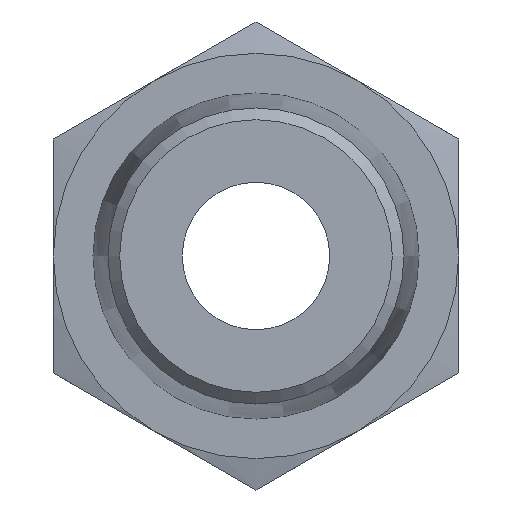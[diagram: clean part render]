
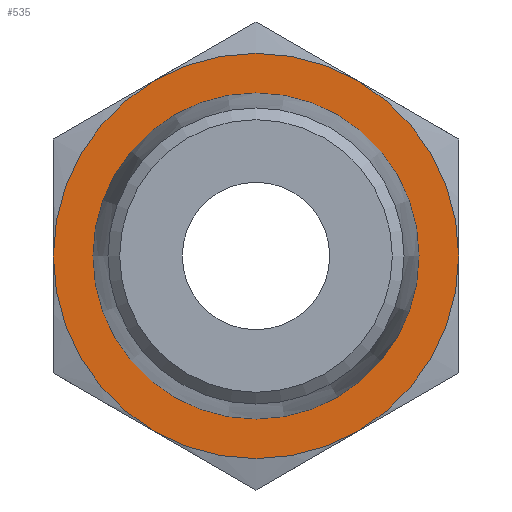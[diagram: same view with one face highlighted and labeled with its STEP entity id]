
A CAD part, front view. The second image highlights one B-rep face of the part: STEP entity #535.
In plain terms, the highlighted planar face has unit normal (0, -1, 0).
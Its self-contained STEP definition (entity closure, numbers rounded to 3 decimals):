
#62=FACE_BOUND('',#158,.T.);
#76=PLANE('',#629);
#113=FACE_OUTER_BOUND('',#157,.T.);
#157=EDGE_LOOP('',(#485,#486,#487,#488,#489,#490));
#158=EDGE_LOOP('',(#491));
#212=CIRCLE('',#597,4.425);
#213=CIRCLE('',#599,5.5);
#214=CIRCLE('',#601,5.5);
#215=CIRCLE('',#603,5.5);
#216=CIRCLE('',#605,5.5);
#217=CIRCLE('',#607,5.5);
#218=CIRCLE('',#609,5.5);
#245=VERTEX_POINT('',#858);
#247=VERTEX_POINT('',#863);
#248=VERTEX_POINT('',#867);
#250=VERTEX_POINT('',#874);
#252=VERTEX_POINT('',#884);
#254=VERTEX_POINT('',#897);
#256=VERTEX_POINT('',#907);
#300=EDGE_CURVE('',#245,#245,#212,.T.);
#304=EDGE_CURVE('',#247,#248,#213,.T.);
#307=EDGE_CURVE('',#250,#247,#214,.T.);
#310=EDGE_CURVE('',#252,#250,#215,.T.);
#312=EDGE_CURVE('',#254,#252,#216,.T.);
#315=EDGE_CURVE('',#256,#254,#217,.T.);
#318=EDGE_CURVE('',#248,#256,#218,.T.);
#485=ORIENTED_EDGE('',*,*,#318,.T.);
#486=ORIENTED_EDGE('',*,*,#315,.T.);
#487=ORIENTED_EDGE('',*,*,#312,.T.);
#488=ORIENTED_EDGE('',*,*,#310,.T.);
#489=ORIENTED_EDGE('',*,*,#307,.T.);
#490=ORIENTED_EDGE('',*,*,#304,.T.);
#491=ORIENTED_EDGE('',*,*,#300,.T.);
#535=ADVANCED_FACE('',(#113,#62),#76,.F.);
#597=AXIS2_PLACEMENT_3D('',#859,#717,#718);
#599=AXIS2_PLACEMENT_3D('',#871,#722,#723);
#601=AXIS2_PLACEMENT_3D('',#881,#726,#727);
#603=AXIS2_PLACEMENT_3D('',#891,#730,#731);
#605=AXIS2_PLACEMENT_3D('',#898,#734,#735);
#607=AXIS2_PLACEMENT_3D('',#908,#738,#739);
#609=AXIS2_PLACEMENT_3D('',#917,#742,#743);
#629=AXIS2_PLACEMENT_3D('',#994,#788,#789);
#717=DIRECTION('center_axis',(0.,1.,0.));
#718=DIRECTION('ref_axis',(1.,0.,0.));
#722=DIRECTION('center_axis',(0.,-1.,0.));
#723=DIRECTION('ref_axis',(1.,0.,0.));
#726=DIRECTION('center_axis',(0.,-1.,0.));
#727=DIRECTION('ref_axis',(1.,0.,0.));
#730=DIRECTION('center_axis',(0.,-1.,0.));
#731=DIRECTION('ref_axis',(1.,0.,0.));
#734=DIRECTION('center_axis',(0.,-1.,0.));
#735=DIRECTION('ref_axis',(1.,0.,0.));
#738=DIRECTION('center_axis',(0.,-1.,0.));
#739=DIRECTION('ref_axis',(1.,0.,0.));
#742=DIRECTION('center_axis',(0.,-1.,0.));
#743=DIRECTION('ref_axis',(1.,0.,0.));
#788=DIRECTION('center_axis',(0.,1.,0.));
#789=DIRECTION('ref_axis',(0.,0.,1.));
#858=CARTESIAN_POINT('',(-4.425,0.,0.));
#859=CARTESIAN_POINT('Origin',(0.,0.,0.));
#863=CARTESIAN_POINT('',(-2.75,0.,4.763));
#867=CARTESIAN_POINT('',(-5.5,0.,0.));
#871=CARTESIAN_POINT('Origin',(0.,0.,0.));
#874=CARTESIAN_POINT('',(2.75,0.,4.763));
#881=CARTESIAN_POINT('Origin',(0.,0.,0.));
#884=CARTESIAN_POINT('',(5.5,0.,0.));
#891=CARTESIAN_POINT('Origin',(0.,0.,0.));
#897=CARTESIAN_POINT('',(2.75,0.,-4.763));
#898=CARTESIAN_POINT('Origin',(0.,0.,0.));
#907=CARTESIAN_POINT('',(-2.75,0.,-4.763));
#908=CARTESIAN_POINT('Origin',(0.,0.,0.));
#917=CARTESIAN_POINT('Origin',(0.,0.,0.));
#994=CARTESIAN_POINT('Origin',(0.,0.,0.));
